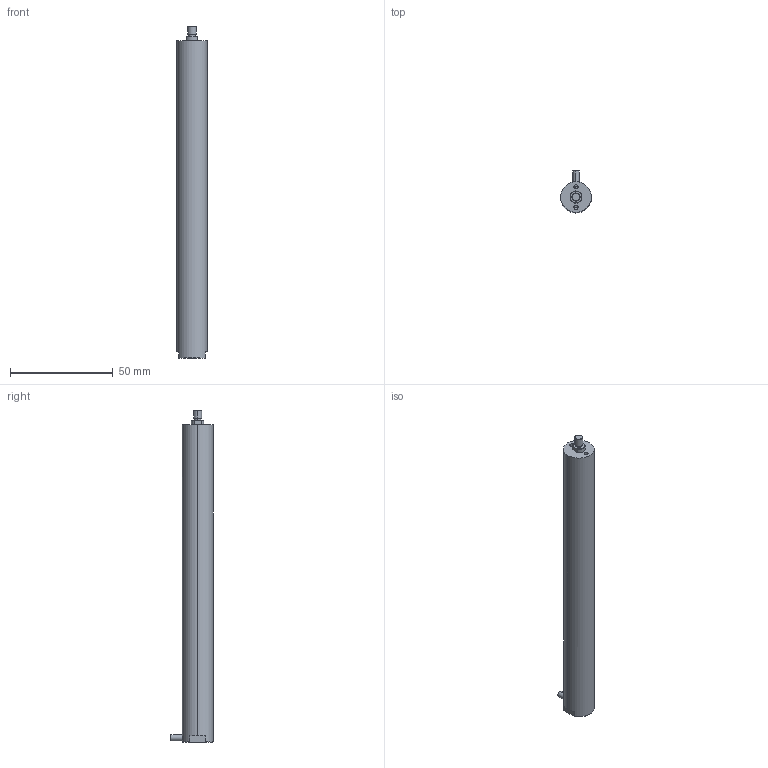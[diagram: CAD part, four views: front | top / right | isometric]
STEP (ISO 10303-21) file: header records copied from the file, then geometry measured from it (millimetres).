
FILE_DESCRIPTION (( 'STEP AP203' ), '1' );
FILE_NAME ('160VS15俋蹟恇.STEP', '2024-11-30T07:45:32', ( 'daohangxitong.com' ), ( 'daohangxitong.com' ), 'SwSTEP 2.0', 'SolidWorks 2016', '' );
FILE_SCHEMA (( 'CONFIG_CONTROL_DESIGN' ));
Length unit declared in the file: millimetre
Products named in the file (1): 160VS15俋蹟恇
Bounding box: 15 x 20.5 x 161.8 mm (x, y, z)
Volume: 27387.1 mm3; surface area: 7864.5 mm2
Topology: 1 solids, 1 shells, 969 faces, 2780 edges, 1847 vertices
Faces by surface type: bspline 846, plane 55, cylinder 54, cone 14
Entity records: 52504 total; most frequent: CARTESIAN_POINT 34676, ORIENTED_EDGE 5548, EDGE_CURVE 2774, B_SPLINE_CURVE_WITH_KNOTS 2594, VERTEX_POINT 1847, EDGE_LOOP 1009, FACE_OUTER_BOUND 969, ADVANCED_FACE 969
